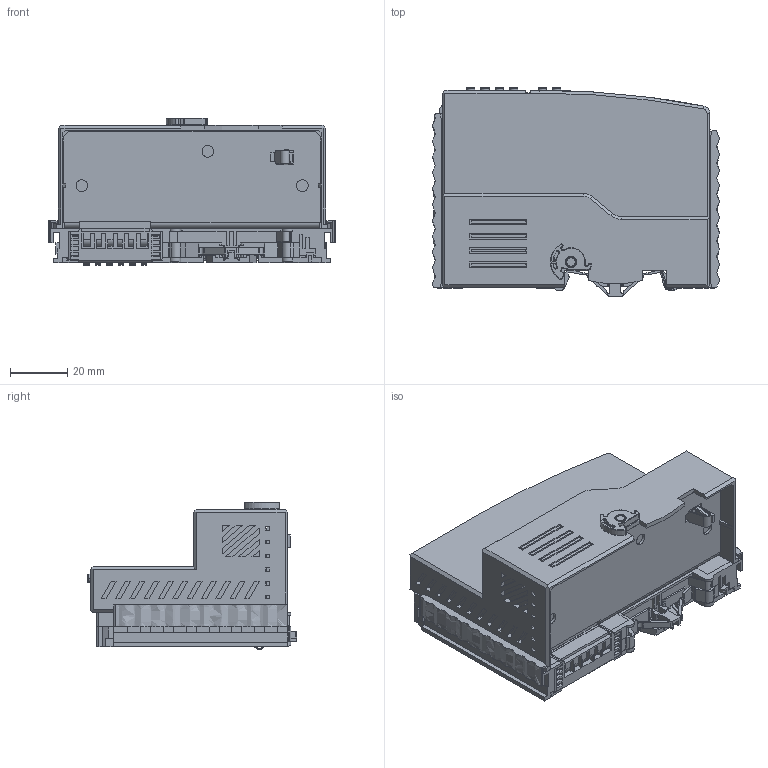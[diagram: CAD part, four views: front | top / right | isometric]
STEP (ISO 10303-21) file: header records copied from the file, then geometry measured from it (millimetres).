
FILE_DESCRIPTION((''),'2;1');
FILE_NAME('PRT0002','2022-03-24T',('Administrator'),(''),'PRO/ENGINEER BY PARAMETRIC TECHNOLOGY CORPORATION, 2015280','PRO/ENGINEER BY PARAMETRIC TECHNOLOGY CORPORATION, 2015280','');
FILE_SCHEMA(('CONFIG_CONTROL_DESIGN'));
Products named in the file (1): PRT0002
Bounding box: 100 x 73 x 51.46 mm (x, y, z)
Surface area: 73395.7 mm2
Topology: 9 solids, 25 shells, 5532 faces, 16920 edges, 11358 vertices
Faces by surface type: plane 3302, cylinder 1496, cone 439, torus 222, bspline 43, sphere 28, extrusion 2
Entity records: 196347 total; most frequent: CARTESIAN_POINT 41551, ORIENTED_EDGE 33670, DIRECTION 31861, EDGE_CURVE 16888, VERTEX_POINT 11358, VECTOR 10853, LINE 10851, AXIS2_PLACEMENT_3D 10504
